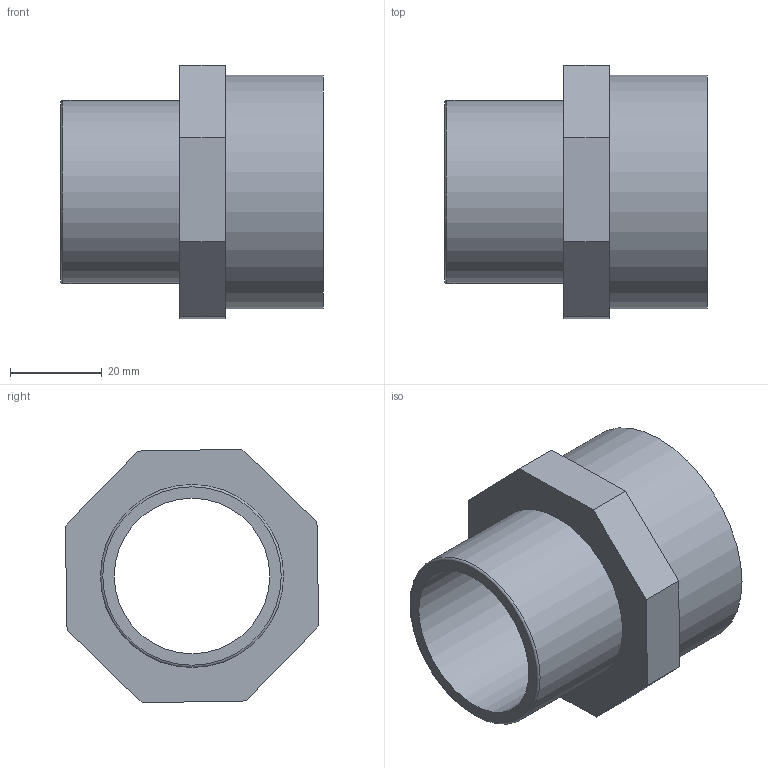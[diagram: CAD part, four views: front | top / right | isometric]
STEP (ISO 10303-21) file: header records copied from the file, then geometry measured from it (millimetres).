
FILE_DESCRIPTION(/* description */ (''),/* implementation_level */ '2;1');
FILE_NAME(/* name */ 'C:\Users\Gabriele\Desktop\disegni 3D\SF12\SF12040E.ipt.stp',/* time_stamp */ '2017-02-10T10:11:18+01:00',/* author */ ('Eugenio'),/* organization */ (''),/* preprocessor_version */ 'ST-DEVELOPER v16.5',/* originating_system */ 'Autodesk Inventor 2017',/* authorisation */ '');
FILE_SCHEMA (('AUTOMOTIVE_DESIGN { 1 0 10303 214 3 1 1 }'));
Length unit declared in the file: millimetre
Products named in the file (1): SF12040E
Bounding box: 57.4 x 55.38 x 55.38 mm (x, y, z)
Volume: 41308.7 mm3; surface area: 25997.1 mm2
Topology: 2 solids, 2 shells, 28 faces, 62 edges, 41 vertices
Faces by surface type: plane 15, cylinder 6, bspline 6, torus 1
Full cylindrical faces by diameter (mm): 34 x1, 40 x1, 41.91 x2, 51 x1
Entity records: 5055 total; most frequent: CARTESIAN_POINT 4465, ORIENTED_EDGE 112, DIRECTION 96, EDGE_CURVE 56, EDGE_LOOP 41, VERTEX_POINT 41, AXIS2_PLACEMENT_3D 36, FACE_OUTER_BOUND 28
